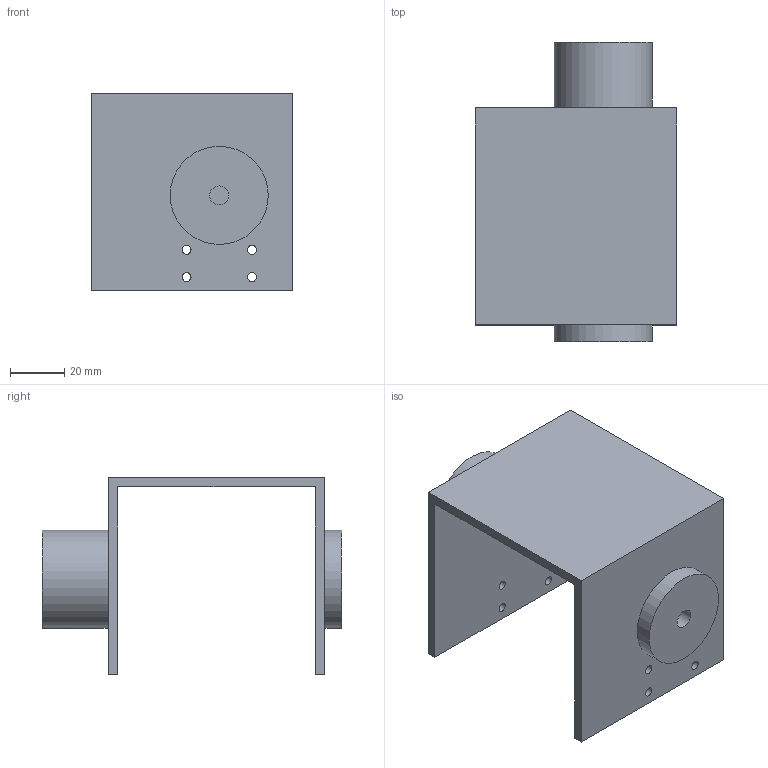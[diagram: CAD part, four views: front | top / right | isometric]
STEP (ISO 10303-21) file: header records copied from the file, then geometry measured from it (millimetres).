
FILE_DESCRIPTION(('Open CASCADE Model'),'2;1');
FILE_NAME('Open CASCADE Shape Model','2026-10-15T19:33:11',('Author'),( 'Open CASCADE'),'Open CASCADE STEP processor 7.9','Open CASCADE 7.9' ,'Unknown');
FILE_SCHEMA(('AUTOMOTIVE_DESIGN { 1 0 10303 214 1 1 1 1 }'));
Length unit declared in the file: millimetre
Products named in the file (1): Open CASCADE STEP translator 7.9 4
Bounding box: 74 x 110 x 72.5 mm (x, y, z)
Volume: 77225.4 mm3; surface area: 40820.6 mm2
Topology: 1 solids, 1 shells, 35 faces, 75 edges, 50 vertices
Faces by surface type: plane 18, cylinder 17
Full cylindrical faces by diameter (mm): 2.5 x3, 3.3 x8, 4 x1, 6 x1, 7 x1, 29 x1, 36 x2
Entity records: 2326 total; most frequent: CARTESIAN_POINT 693, DIRECTION 313, LINE 151, VECTOR 151, ORIENTED_EDGE 150, PCURVE 150, DEFINITIONAL_REPRESENTATION 150, EDGE_CURVE 75
